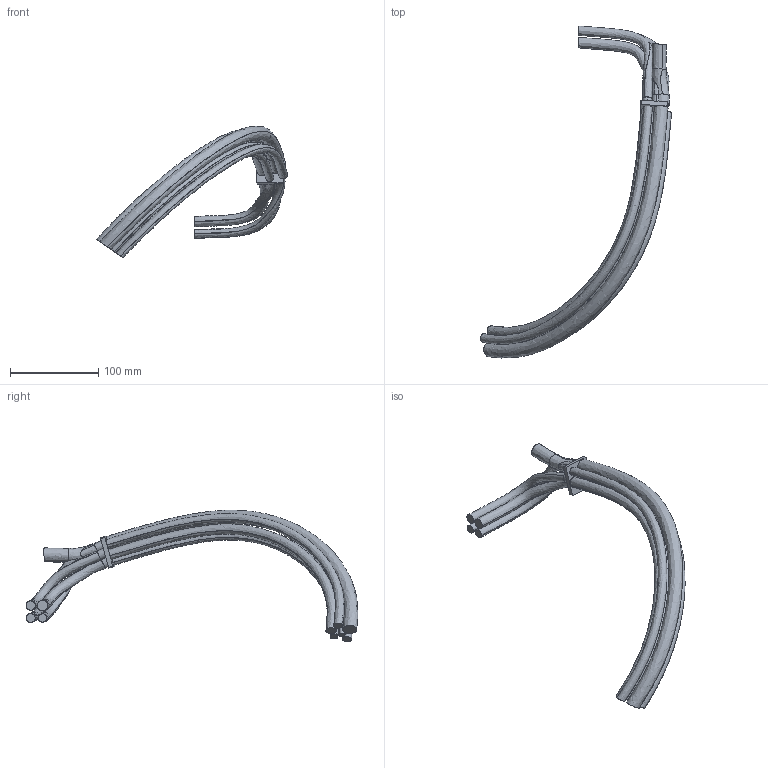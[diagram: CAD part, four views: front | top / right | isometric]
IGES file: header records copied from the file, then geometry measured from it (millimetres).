
Start section: SolidWorks IGES file using analytic representation for surfaces
Global section: file name: C:\Data\SAP_DOC\_2016-Q4_Lättmodeller RobCal\CAD Model_IRB4600_Rev04\IRB4600_40kg-255_IRC5_rev04\IRB4600_40kg-255_IRC5_rev04_IRC5_IGES_j\IRB4600_40kg-255_CABLES_LINK3_rev03.IGS; native system: SolidWorks 2014; preprocessor: SolidWorks 2014; author: SEMAAXM; date: 161206.112903; units: millimetre
Bounding box: 216.35 x 375.96 x 149.03 mm (x, y, z)
Surface area: 105535.1 mm2 (no closed solid volume)
Topology: 0 solids, 0 shells, 57 faces, 1329 edges, 1329 vertices
Faces by surface type: bspline 48, revolution 9
